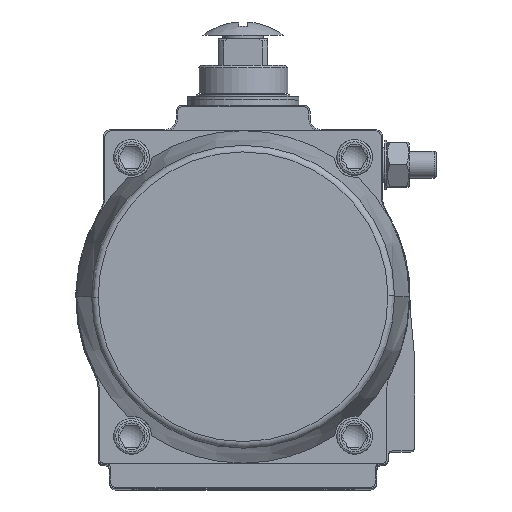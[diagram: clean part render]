
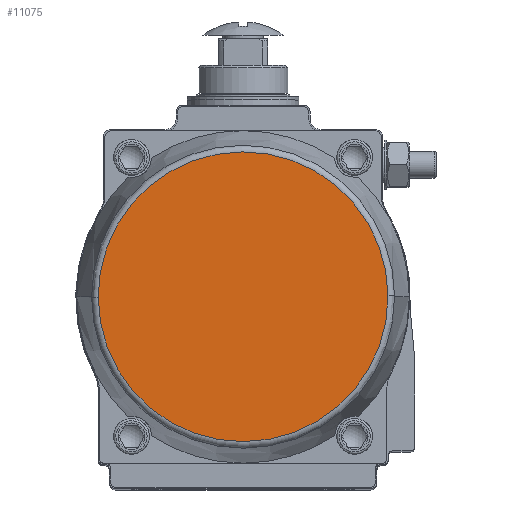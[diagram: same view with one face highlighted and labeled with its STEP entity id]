
A CAD part, top view. The second image highlights one B-rep face of the part: STEP entity #11075.
In plain terms, the highlighted planar face has unit normal (0, 0, 1).
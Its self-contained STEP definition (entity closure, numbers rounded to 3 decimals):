
#11075=ADVANCED_FACE('',(#27567),#27569,.F.);
#27567=FACE_BOUND('',#27568,.T.);
#27568=EDGE_LOOP('',(#33220,#33221));
#27569=PLANE('',#27570);
#27570=AXIS2_PLACEMENT_3D('',#27571,#27572,#27573);
#27571=CARTESIAN_POINT('',(316.246,191.541,199.));
#27572=DIRECTION('',(0.,0.,-1.));
#27573=DIRECTION('',(-1.,0.,0.));
#33220=ORIENTED_EDGE('',*,*,#36045,.F.);
#33221=ORIENTED_EDGE('',*,*,#35680,.F.);
#35680=EDGE_CURVE('',#40242,#40244,#40245,.T.);
#36045=EDGE_CURVE('',#40244,#40242,#40858,.T.);
#40242=VERTEX_POINT('',#81878);
#40244=VERTEX_POINT('',#81883);
#40245=CIRCLE('',#81884,64.93);
#40858=CIRCLE('',#84541,64.93);
#81878=CARTESIAN_POINT('',(251.318,191.173,199.));
#81883=CARTESIAN_POINT('',(381.175,191.91,199.));
#81884=AXIS2_PLACEMENT_3D('',#81885,#81886,#81887);
#81885=CARTESIAN_POINT('',(316.246,191.541,199.));
#81886=DIRECTION('',(0.,0.,-1.));
#81887=DIRECTION('',(-1.,-0.006,0.));
#84541=AXIS2_PLACEMENT_3D('',#84542,#84543,#84544);
#84542=CARTESIAN_POINT('',(316.246,191.541,199.));
#84543=DIRECTION('',(0.,0.,-1.));
#84544=DIRECTION('',(1.,0.006,0.));
